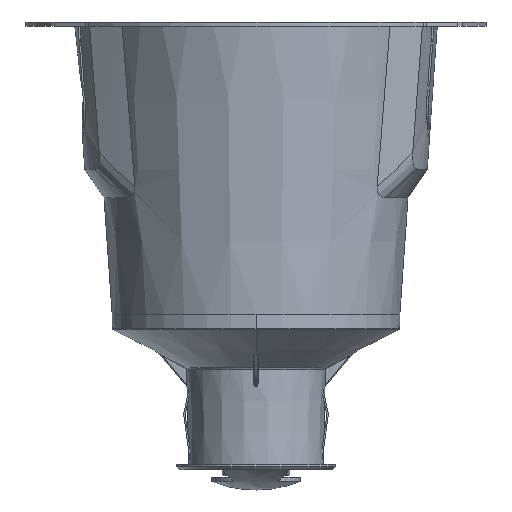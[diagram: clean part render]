
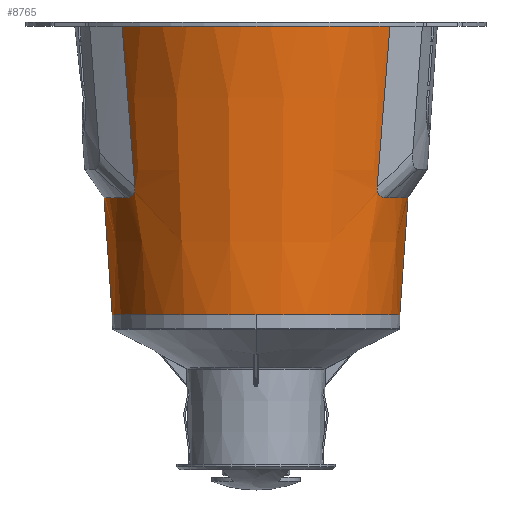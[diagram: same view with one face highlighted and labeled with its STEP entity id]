
A CAD part, front view. The second image highlights one B-rep face of the part: STEP entity #8765.
In plain terms, the highlighted conical face has half-angle 3.984 degrees and reference radius 53.5 mm.
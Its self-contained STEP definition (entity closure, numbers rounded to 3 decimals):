
#484=CARTESIAN_POINT('',(0.,0.,128.5));
#485=DIRECTION('',(0.,0.,-1.));
#486=DIRECTION('',(0.817,-0.576,0.));
#487=AXIS2_PLACEMENT_3D('',#484,#485,#486);
#1142=CARTESIAN_POINT('',(0.,0.,
68.524));
#1143=DIRECTION('',(0.,0.,-1.));
#1144=DIRECTION('',(-0.854,-0.521,0.));
#1145=AXIS2_PLACEMENT_3D('',#1142,#1143,#1144);
#1152=CARTESIAN_POINT('',(-45.1,-27.499,
68.524));
#1159=CARTESIAN_POINT('',(-42.118,-32.344,
72.576));
#1172=DIRECTION('',(-0.069,0.,0.998));
#1173=VECTOR('',#1172,40.622);
#1174=CARTESIAN_POINT('',(-50.,0.,28.));
#1175=LINE('',#1174,#1173);
#1176=CARTESIAN_POINT('',(-45.1,-27.499,
68.524));
#1177=CARTESIAN_POINT('',(-44.915,-27.802,
68.524));
#1178=CARTESIAN_POINT('',(-44.561,-28.373,
68.552));
#1179=CARTESIAN_POINT('',(-44.085,-29.121,
68.665));
#1180=CARTESIAN_POINT('',(-43.662,-29.771,
68.838));
#1181=CARTESIAN_POINT('',(-43.296,-30.328,
69.063));
#1182=CARTESIAN_POINT('',(-42.988,-30.794,
69.327));
#1183=CARTESIAN_POINT('',(-42.736,-31.177,
69.621));
#1184=CARTESIAN_POINT('',(-42.534,-31.488,
69.935));
#1185=CARTESIAN_POINT('',(-42.373,-31.743,
70.274));
#1186=CARTESIAN_POINT('',(-42.25,-31.949,
70.638));
#1187=CARTESIAN_POINT('',(-42.16,-32.114,
71.04));
#1188=CARTESIAN_POINT('',(-42.104,-32.239,
71.488));
#1189=CARTESIAN_POINT('',(-42.086,-32.32,
71.991));
#1190=CARTESIAN_POINT('',(-42.102,-32.342,
72.374));
#1191=CARTESIAN_POINT('',(-42.118,-32.344,
72.576));
#1193=DIRECTION('',(-0.08,-0.009,0.997));
#1194=VECTOR('',#1193,56.105);
#1195=CARTESIAN_POINT('',(-42.118,-32.344,
72.576));
#1196=LINE('',#1195,#1194);
#1197=DIRECTION('',(-0.08,0.009,-0.997));
#1198=VECTOR('',#1197,56.105);
#1199=CARTESIAN_POINT('',(46.594,-32.832,128.5));
#1200=LINE('',#1199,#1198);
#1201=DIRECTION('',(0.069,0.,0.998));
#1202=VECTOR('',#1201,40.622);
#1203=CARTESIAN_POINT('',(50.,0.,28.));
#1204=LINE('',#1203,#1202);
#1241=CARTESIAN_POINT('',(0.,0.,28.));
#1242=DIRECTION('',(0.,0.,1.));
#1243=DIRECTION('',(-1.,0.,0.));
#1244=AXIS2_PLACEMENT_3D('',#1241,#1242,#1243);
#2609=CARTESIAN_POINT('',(0.,0.,
68.524));
#2610=DIRECTION('',(0.,0.,-1.));
#2611=DIRECTION('',(1.,0.,0.));
#2612=AXIS2_PLACEMENT_3D('',#2609,#2610,#2611);
#2770=CARTESIAN_POINT('',(45.1,-27.499,68.524));
#2771=CARTESIAN_POINT('',(44.915,-27.802,68.524));
#2772=CARTESIAN_POINT('',(44.561,-28.373,68.552));
#2773=CARTESIAN_POINT('',(44.084,-29.123,68.665));
#2774=CARTESIAN_POINT('',(43.66,-29.774,68.839));
#2775=CARTESIAN_POINT('',(43.292,-30.333,69.065));
#2776=CARTESIAN_POINT('',(42.983,-30.801,69.332));
#2777=CARTESIAN_POINT('',(42.731,-31.185,69.627));
#2778=CARTESIAN_POINT('',(42.53,-31.494,69.943));
#2779=CARTESIAN_POINT('',(42.371,-31.747,70.28));
#2780=CARTESIAN_POINT('',(42.249,-31.951,70.644));
#2781=CARTESIAN_POINT('',(42.16,-32.115,71.043));
#2782=CARTESIAN_POINT('',(42.104,-32.239,71.489));
#2783=CARTESIAN_POINT('',(42.086,-32.32,71.991));
#2784=CARTESIAN_POINT('',(42.102,-32.342,72.374));
#2785=CARTESIAN_POINT('',(42.118,-32.344,72.576));
#2787=CARTESIAN_POINT('',(46.594,-32.832,128.5));
#5674=VERTEX_POINT('',#2787);
#5675=CARTESIAN_POINT('',(-46.595,-32.832,
128.5));
#5676=VERTEX_POINT('',#5675);
#5833=VERTEX_POINT('',#1152);
#5834=CARTESIAN_POINT('',(-52.823,0.,
68.524));
#5835=VERTEX_POINT('',#5834);
#5836=VERTEX_POINT('',#1159);
#5837=CARTESIAN_POINT('',(-50.,0.,28.));
#5838=VERTEX_POINT('',#5837);
#5839=CARTESIAN_POINT('',(42.118,-32.344,72.576));
#5840=VERTEX_POINT('',#5839);
#5841=VERTEX_POINT('',#2770);
#5842=CARTESIAN_POINT('',(52.823,0.,
68.524));
#5843=VERTEX_POINT('',#5842);
#5844=CARTESIAN_POINT('',(50.,0.,28.));
#5845=VERTEX_POINT('',#5844);
#8742=CARTESIAN_POINT('',(0.,0.,78.25));
#8743=DIRECTION('',(0.,0.,1.));
#8744=DIRECTION('',(1.,0.,0.));
#8745=AXIS2_PLACEMENT_3D('',#8742,#8743,#8744);
#8746=CONICAL_SURFACE('',#8745,53.5,3.984);
#8748=ORIENTED_EDGE('',*,*,#8747,.T.);
#8749=ORIENTED_EDGE('',*,*,#8652,.F.);
#8750=ORIENTED_EDGE('',*,*,#8704,.T.);
#8751=ORIENTED_EDGE('',*,*,#8734,.T.);
#8752=ORIENTED_EDGE('',*,*,#7476,.F.);
#8754=ORIENTED_EDGE('',*,*,#8753,.T.);
#8756=ORIENTED_EDGE('',*,*,#8755,.F.);
#8758=ORIENTED_EDGE('',*,*,#8757,.F.);
#8760=ORIENTED_EDGE('',*,*,#8759,.F.);
#8762=ORIENTED_EDGE('',*,*,#8761,.F.);
#8763=EDGE_LOOP('',(#8748,#8749,#8750,#8751,#8752,#8754,#8756,#8758,#8760,
#8762));
#8764=FACE_OUTER_BOUND('',#8763,.F.);
#8765=ADVANCED_FACE('',(#8764),#8746,.T.);
#488=CIRCLE('',#487,57.);
#1146=CIRCLE('',#1145,52.823);
#1192=B_SPLINE_CURVE_WITH_KNOTS('',3,(#1176,#1177,#1178,#1179,#1180,#1181,#1182,
#1183,#1184,#1185,#1186,#1187,#1188,#1189,#1190,#1191),.UNSPECIFIED.,.F.,.F.,(4,
1,1,1,1,1,1,1,1,1,1,1,1,4),(0.,0.077,0.154,
0.231,0.308,0.385,0.462,
0.538,0.615,0.692,0.769,
0.846,0.923,1.),.UNSPECIFIED.);
#1245=CIRCLE('',#1244,50.);
#2613=CIRCLE('',#2612,52.823);
#2786=B_SPLINE_CURVE_WITH_KNOTS('',3,(#2770,#2771,#2772,#2773,#2774,#2775,#2776,
#2777,#2778,#2779,#2780,#2781,#2782,#2783,#2784,#2785),.UNSPECIFIED.,.F.,.F.,(4,
1,1,1,1,1,1,1,1,1,1,1,1,4),(0.,0.077,0.154,
0.231,0.308,0.385,0.462,
0.538,0.615,0.692,0.769,
0.846,0.923,1.),.UNSPECIFIED.);
#7476=EDGE_CURVE('',#5674,#5676,#488,.T.);
#8652=EDGE_CURVE('',#5833,#5835,#1146,.T.);
#8704=EDGE_CURVE('',#5833,#5836,#1192,.T.);
#8734=EDGE_CURVE('',#5836,#5676,#1196,.T.);
#8747=EDGE_CURVE('',#5838,#5835,#1175,.T.);
#8753=EDGE_CURVE('',#5674,#5840,#1200,.T.);
#8755=EDGE_CURVE('',#5841,#5840,#2786,.T.);
#8757=EDGE_CURVE('',#5843,#5841,#2613,.T.);
#8759=EDGE_CURVE('',#5845,#5843,#1204,.T.);
#8761=EDGE_CURVE('',#5838,#5845,#1245,.T.);
